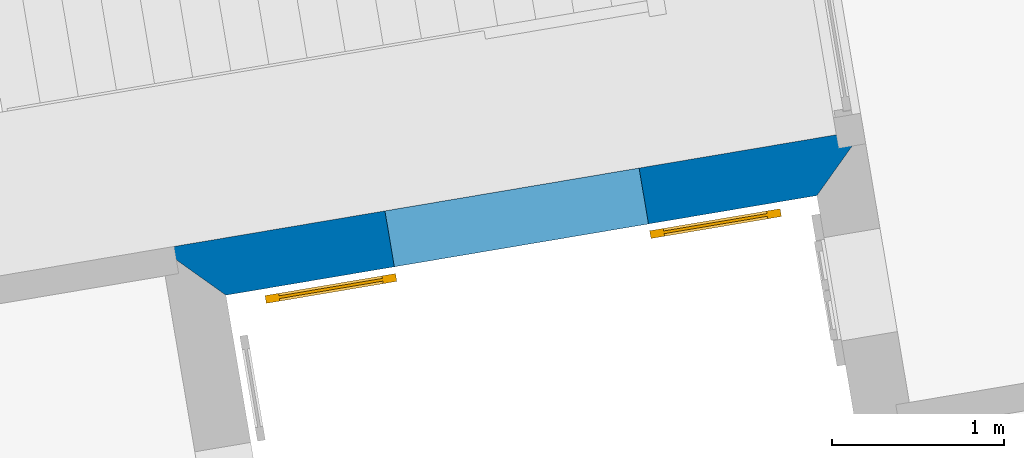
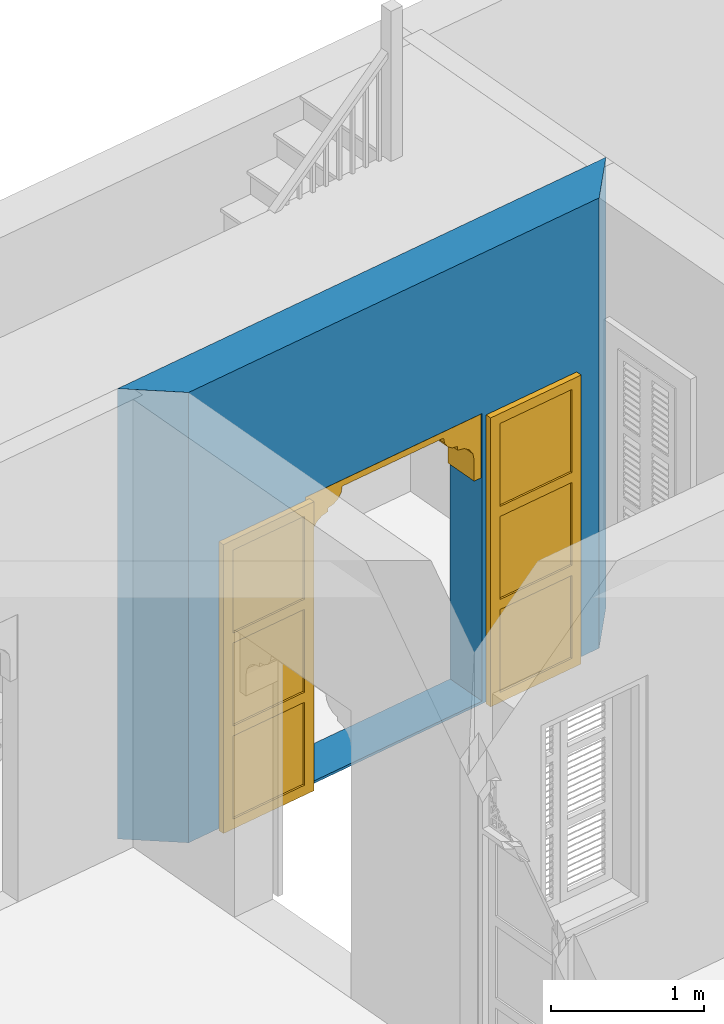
# One storey, part 11 of 15: 1 door, 1 wall, 1 opening.
"""IFC4 building model written with IfcOpenShell, lengths in metres."""

from ifc_helpers import new_model, si_unit, frame, origin, origin_with_axes, place, context, subcontext, project, spatial, polyline, outline, extrude, faceted_brep, source, transform, mapped, material, layer, layer_set, layer_usage, type_object, type_shapes, element, fill, save


model = new_model("IFC4")

# Units and contexts
model_context = context("Model", 3, world=origin_with_axes())
body_context = subcontext(model_context, "Body", "Model", "MODEL_VIEW")
ifc_project = project(units=[si_unit("PLANEANGLEUNIT", "RADIAN"), si_unit("MASSUNIT", "GRAM", prefix="KILO"), si_unit("FORCEUNIT", "NEWTON", prefix="KILO"), si_unit("LENGTHUNIT", "METRE"), si_unit("AREAUNIT", "SQUARE_METRE"), si_unit("VOLUMEUNIT", "CUBIC_METRE")], contexts=[model_context, model_context])

# Site, building, storey
site_placement = place(None, origin_with_axes())
site = spatial("IfcSite", under=ifc_project, at=site_placement, Name="Site plot-6", CompositionType="ELEMENT")
building_placement = place(None, origin_with_axes())
building = spatial("IfcBuilding", under=site, at=building_placement, Name="Building plot-6", CompositionType="ELEMENT")
storey_placement = place(None, origin_with_axes())
storey = spatial("IfcBuildingStorey", under=building, at=storey_placement, Name="plot-6 0", CompositionType="ELEMENT", Elevation=0.0)

# Wall, opening, door
ifc_material = material(Name="Masonry")
ifc_layer = layer(ifc_material, 0.33, ventilated=False)
ifc_layer_set = layer_set([ifc_layer], Name="exterior_0.08_0.25")
ifc_layer_usage = layer_usage(ifc_layer_set, "AXIS2", "POSITIVE", -0.25)
wall_type = type_object("IfcWallType", Name="exterior_0.08_0.25", PredefinedType="SOLIDWALL", material=ifc_layer_set)
wall_placement = place(storey_placement, frame((-6.94638677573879, 2.66513004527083, 0.0), z_axis=(0.0, 0.0, 1.0), x_axis=(0.986076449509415, 0.166292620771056, 0.0)))
wall = element("IfcWall", 1, at=wall_placement, inside=storey, type_object=wall_type, material=ifc_layer_usage, Name="exterior", context=body_context, shape_type="SweptSolid", body=[
    extrude(outline(polyline([(-0.0799999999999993, 0.0799999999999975), (0.249999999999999, -0.250000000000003), (3.73805094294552, -0.25), (4.06805094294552, 0.0799999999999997), (-0.0799999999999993, 0.0799999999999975)])), origin_with_axes(), (0.0, 0.0, 1.0), 3.6),
])
opening_placement = place(wall_placement, frame((1.24402547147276, 0.0, 0.02)))
opening = element("IfcOpeningElement", 2, at=opening_placement, cuts=wall, Name="My Opening", ObjectType="Opening", context=body_context, shape_type="SweptSolid", body=[
    extrude(outline(polyline([(0.0, -0.27), (1.5, -0.27), (1.5, 1.1), (0.0, 1.1), (0.0, -0.27)])), origin_with_axes(), (0.0, 0.0, 1.0), 2.3),
])
door_type = type_object("IfcDoorType", Name="arch-1500x2300", OperationType="SINGLE_SWING_LEFT", PredefinedType="NOTDEFINED")
shared_shape = source(origin(), body_context, "Body", "Brep", [
    faceted_brep([(-0.08, -0.02, 0.08), (-0.08, -0.02, 0.0), (-0.69, -0.02, 0.0), (-0.69, -0.02, 0.08), (-0.77, -0.02, 0.0), (-0.77, -0.02, 0.08), (-0.69, -0.035, 0.08), (-0.08, -0.035, 0.08), (0.0, -0.02, 0.08), (0.0, -0.02, 0.0), (-0.08, -0.066, 0.0), (-0.69, -0.066, 0.0), (-0.77, -0.066, 0.0), (-0.77, -0.066, 0.08), (-0.69, -0.02, 0.743333), (-0.77, -0.02, 0.743333), (-0.69, -0.035, 0.743333), (-0.08, -0.035, 0.743333), (-0.08, -0.02, 0.743333), (0.0, -0.02, 0.743333), (0.0, -0.066, 0.08), (0.0, -0.066, 0.0), (-0.69, -0.066, 0.08), (-0.08, -0.066, 0.08), (-0.77, -0.066, 0.743333), (-0.69, -0.02, 0.823333), (-0.77, -0.02, 0.823333), (0.0, -0.066, 0.743333), (0.0, -0.02, 0.823333), (-0.08, -0.02, 0.823333), (-0.08, -0.051, 0.08), (-0.69, -0.051, 0.08), (-0.69, -0.066, 0.743333), (-0.77, -0.066, 0.823333), (-0.69, -0.02, 1.486667), (-0.77, -0.02, 1.486667), (0.0, -0.066, 0.823333), (-0.08, -0.066, 0.743333), (0.0, -0.02, 1.486667), (-0.08, -0.02, 1.486667), (-0.08, -0.051, 0.743333), (-0.69, -0.051, 0.743333), (-0.69, -0.066, 0.823333), (-0.77, -0.066, 1.486667), (-0.69, -0.035, 0.823333), (-0.08, -0.035, 0.823333), (-0.69, -0.035, 1.486667), (-0.69, -0.02, 1.566667), (-0.77, -0.02, 1.566667), (0.0, -0.066, 1.486667), (-0.08, -0.066, 0.823333), (-0.08, -0.035, 1.486667), (0.0, -0.02, 1.566667), (-0.08, -0.02, 1.566667), (-0.69, -0.066, 1.486667), (-0.77, -0.066, 1.566667), (-0.69, -0.02, 2.23), (-0.77, -0.02, 2.23), (0.0, -0.066, 1.566667), (-0.08, -0.066, 1.486667), (0.0, -0.02, 2.23), (-0.08, -0.02, 2.23), (-0.08, -0.051, 0.823333), (-0.69, -0.051, 0.823333), (-0.69, -0.051, 1.486667), (-0.69, -0.066, 1.566667), (-0.77, -0.066, 2.23), (-0.69, -0.035, 1.566667), (-0.08, -0.035, 1.566667), (-0.69, -0.035, 2.23), (-0.69, -0.02, 2.31), (-0.77, -0.02, 2.31), (0.0, -0.066, 2.23), (-0.08, -0.066, 1.566667), (-0.08, -0.051, 1.486667), (-0.08, -0.035, 2.23), (0.0, -0.02, 2.31), (-0.08, -0.02, 2.31), (-0.69, -0.066, 2.23), (-0.77, -0.066, 2.31), (-0.69, -0.066, 2.31), (0.0, -0.066, 2.31), (-0.08, -0.066, 2.23), (-0.08, -0.066, 2.31), (-0.08, -0.051, 1.566667), (-0.69, -0.051, 1.566667), (-0.69, -0.051, 2.23), (-0.08, -0.051, 2.23), (2.19, -0.02, 0.08), (2.19, -0.02, 0.0), (1.58, -0.02, 0.0), (1.58, -0.02, 0.08), (2.27, -0.02, 0.08), (2.27, -0.02, 0.0), (1.58, -0.035, 0.08), (2.19, -0.035, 0.08), (1.5, -0.02, 0.0), (1.5, -0.02, 0.08), (2.19, -0.066, 0.0), (1.58, -0.066, 0.0), (2.27, -0.066, 0.08), (2.27, -0.066, 0.0), (2.27, -0.02, 0.743333), (2.19, -0.02, 0.743333), (2.19, -0.035, 0.743333), (1.58, -0.035, 0.743333), (1.58, -0.02, 0.743333), (1.5, -0.02, 0.743333), (1.5, -0.066, 0.0), (1.5, -0.066, 0.08), (1.58, -0.066, 0.08), (2.19, -0.066, 0.08), (2.27, -0.066, 0.743333), (2.27, -0.02, 0.823333), (2.19, -0.02, 0.823333), (1.5, -0.066, 0.743333), (1.58, -0.02, 0.823333), (1.5, -0.02, 0.823333), (2.19, -0.051, 0.08), (1.58, -0.051, 0.08), (2.19, -0.066, 0.743333), (2.27, -0.066, 0.823333), (2.27, -0.02, 1.486667), (2.19, -0.02, 1.486667), (1.5, -0.066, 0.823333), (1.58, -0.066, 0.743333), (1.58, -0.02, 1.486667), (1.5, -0.02, 1.486667), (1.58, -0.051, 0.743333), (2.19, -0.051, 0.743333), (2.19, -0.066, 0.823333), (2.27, -0.066, 1.486667), (1.58, -0.035, 0.823333), (2.19, -0.035, 0.823333), (2.19, -0.035, 1.486667), (2.27, -0.02, 1.566667), (2.19, -0.02, 1.566667), (1.5, -0.066, 1.486667), (1.58, -0.066, 0.823333), (1.58, -0.035, 1.486667), (1.58, -0.02, 1.566667), (1.5, -0.02, 1.566667), (2.19, -0.066, 1.486667), (2.27, -0.066, 1.566667), (2.27, -0.02, 2.23), (2.19, -0.02, 2.23), (1.5, -0.066, 1.566667), (1.58, -0.066, 1.486667), (1.58, -0.02, 2.23), (1.5, -0.02, 2.23), (2.19, -0.051, 0.823333), (1.58, -0.051, 0.823333), (2.19, -0.051, 1.486667), (2.19, -0.066, 1.566667), (2.27, -0.066, 2.23), (1.58, -0.035, 1.566667), (2.19, -0.035, 1.566667), (2.19, -0.035, 2.23), (2.27, -0.02, 2.31), (2.19, -0.02, 2.31), (1.5, -0.066, 2.23), (1.58, -0.066, 1.566667), (1.58, -0.051, 1.486667), (1.58, -0.035, 2.23), (1.58, -0.02, 2.31), (1.5, -0.02, 2.31), (2.19, -0.066, 2.23), (2.27, -0.066, 2.31), (2.19, -0.066, 2.31), (1.5, -0.066, 2.31), (1.58, -0.066, 2.23), (1.58, -0.066, 2.31), (2.19, -0.051, 1.566667), (1.58, -0.051, 1.566667), (2.19, -0.051, 2.23), (1.58, -0.051, 2.23), (1.5, 0.03, 1.78), (1.5, 0.03, 1.95), (1.44, 0.03, 1.95), (1.44, 0.03, 1.78), (1.44, 0.3, 1.95), (1.44, 0.3, 1.78), (1.5, 0.03, 2.12), (1.429, 0.03, 2.004), (1.5, 0.3, 1.78), (1.5, 0.3, 1.95), (1.429, 0.3, 2.004), (1.399, 0.03, 2.049), (1.5, 0.3, 2.12), (1.399, 0.3, 2.049), (1.354, 0.03, 2.079), (1.5, 0.3, 2.29), (1.5, 0.03, 2.29), (1.354, 0.3, 2.079), (1.3, 0.03, 2.09), (1.3, 0.03, 2.12), (1.254, 0.03, 2.129), (1.18, 0.3, 2.29), (1.18, 0.03, 2.29), (1.3, 0.3, 2.12), (1.254, 0.3, 2.129), (1.3, 0.3, 2.09), (1.215, 0.03, 2.155), (1.189, 0.3, 2.194), (1.18, 0.3, 2.24), (1.18, 0.03, 2.24), (1.189, 0.03, 2.194), (1.215, 0.3, 2.155), (0.06, 0.03, 1.78), (0.06, 0.03, 1.95), (0.0, 0.03, 1.95), (0.0, 0.03, 1.78), (0.06, 0.3, 1.78), (0.06, 0.3, 1.95), (0.071, 0.03, 2.004), (0.0, 0.03, 2.12), (0.0, 0.3, 1.95), (0.0, 0.3, 1.78), (0.071, 0.3, 2.004), (0.101, 0.03, 2.049), (0.0, 0.3, 2.12), (0.101, 0.3, 2.049), (0.146, 0.03, 2.079), (0.0, 0.03, 2.29), (0.0, 0.3, 2.29), (0.146, 0.3, 2.079), (0.2, 0.03, 2.12), (0.2, 0.03, 2.09), (0.246, 0.03, 2.129), (0.32, 0.03, 2.29), (0.32, 0.3, 2.29), (0.246, 0.3, 2.129), (0.2, 0.3, 2.12), (0.2, 0.3, 2.09), (0.285, 0.03, 2.155), (0.32, 0.3, 2.24), (0.311, 0.3, 2.194), (0.311, 0.03, 2.194), (0.32, 0.03, 2.24), (0.285, 0.3, 2.155)], [[[0, 1, 2, 3]], [[4, 5, 3, 2]], [[0, 3, 6, 7]], [[1, 0, 8, 9]], [[2, 1, 10, 11]], [[5, 4, 12, 13]], [[14, 3, 5, 15]], [[4, 2, 11, 12]], [[3, 14, 16, 6]], [[6, 16, 17, 7]], [[18, 0, 7, 17]], [[0, 18, 19, 8]], [[9, 8, 20, 21]], [[1, 9, 21, 10]], [[22, 11, 10, 23]], [[13, 12, 11, 22]], [[15, 5, 13, 24]], [[25, 14, 15, 26]], [[14, 18, 17, 16]], [[8, 19, 27, 20]], [[28, 19, 18, 29]], [[23, 10, 21, 20]], [[22, 23, 30, 31]], [[22, 32, 24, 13]], [[26, 15, 24, 33]], [[29, 18, 14, 25]], [[34, 25, 26, 35]], [[19, 28, 36, 27]], [[20, 27, 37, 23]], [[38, 28, 29, 39]], [[23, 37, 40, 30]], [[41, 31, 30, 40]], [[32, 22, 31, 41]], [[32, 42, 33, 24]], [[35, 26, 33, 43]], [[29, 25, 44, 45]], [[25, 34, 46, 44]], [[47, 34, 35, 48]], [[28, 38, 49, 36]], [[27, 36, 50, 37]], [[39, 29, 45, 51]], [[52, 38, 39, 53]], [[37, 32, 41, 40]], [[37, 50, 42, 32]], [[42, 54, 43, 33]], [[48, 35, 43, 55]], [[44, 46, 51, 45]], [[34, 39, 51, 46]], [[34, 47, 53, 39]], [[56, 47, 48, 57]], [[38, 52, 58, 49]], [[36, 49, 59, 50]], [[60, 52, 53, 61]], [[42, 50, 62, 63]], [[54, 42, 63, 64]], [[54, 65, 55, 43]], [[57, 48, 55, 66]], [[53, 47, 67, 68]], [[47, 56, 69, 67]], [[70, 56, 57, 71]], [[52, 60, 72, 58]], [[49, 58, 73, 59]], [[50, 59, 74, 62]], [[61, 53, 68, 75]], [[76, 60, 61, 77]], [[64, 63, 62, 74]], [[59, 54, 64, 74]], [[65, 54, 59, 73]], [[65, 78, 66, 55]], [[71, 57, 66, 79]], [[67, 69, 75, 68]], [[56, 61, 75, 69]], [[77, 61, 56, 70]], [[70, 71, 79, 80]], [[60, 76, 81, 72]], [[58, 72, 82, 73]], [[76, 77, 83, 81]], [[65, 73, 84, 85]], [[78, 65, 85, 86]], [[78, 80, 79, 66]], [[77, 70, 80, 83]], [[72, 81, 83, 82]], [[73, 82, 87, 84]], [[86, 85, 84, 87]], [[82, 78, 86, 87]], [[82, 83, 80, 78]], [[88, 89, 90, 91]], [[89, 88, 92, 93]], [[94, 95, 88, 91]], [[96, 97, 91, 90]], [[98, 99, 90, 89]], [[100, 101, 93, 92]], [[102, 92, 88, 103]], [[101, 98, 89, 93]], [[95, 104, 103, 88]], [[94, 105, 104, 95]], [[105, 94, 91, 106]], [[97, 107, 106, 91]], [[108, 109, 97, 96]], [[99, 108, 96, 90]], [[110, 99, 98, 111]], [[111, 98, 101, 100]], [[112, 100, 92, 102]], [[113, 102, 103, 114]], [[104, 105, 106, 103]], [[109, 115, 107, 97]], [[116, 106, 107, 117]], [[109, 108, 99, 110]], [[118, 119, 110, 111]], [[100, 112, 120, 111]], [[121, 112, 102, 113]], [[114, 103, 106, 116]], [[122, 113, 114, 123]], [[115, 124, 117, 107]], [[110, 125, 115, 109]], [[126, 116, 117, 127]], [[119, 128, 125, 110]], [[128, 119, 118, 129]], [[129, 118, 111, 120]], [[112, 121, 130, 120]], [[131, 121, 113, 122]], [[132, 133, 114, 116]], [[133, 134, 123, 114]], [[135, 122, 123, 136]], [[124, 137, 127, 117]], [[125, 138, 124, 115]], [[139, 132, 116, 126]], [[140, 126, 127, 141]], [[128, 129, 120, 125]], [[120, 130, 138, 125]], [[121, 131, 142, 130]], [[143, 131, 122, 135]], [[132, 139, 134, 133]], [[134, 139, 126, 123]], [[126, 140, 136, 123]], [[144, 135, 136, 145]], [[137, 146, 141, 127]], [[138, 147, 137, 124]], [[148, 140, 141, 149]], [[150, 151, 138, 130]], [[152, 150, 130, 142]], [[131, 143, 153, 142]], [[154, 143, 135, 144]], [[155, 156, 136, 140]], [[156, 157, 145, 136]], [[158, 144, 145, 159]], [[146, 160, 149, 141]], [[147, 161, 146, 137]], [[151, 162, 147, 138]], [[163, 155, 140, 148]], [[164, 148, 149, 165]], [[162, 151, 150, 152]], [[162, 152, 142, 147]], [[161, 147, 142, 153]], [[143, 154, 166, 153]], [[167, 154, 144, 158]], [[155, 163, 157, 156]], [[157, 163, 148, 145]], [[159, 145, 148, 164]], [[168, 167, 158, 159]], [[160, 169, 165, 149]], [[161, 170, 160, 146]], [[169, 171, 164, 165]], [[172, 173, 161, 153]], [[174, 172, 153, 166]], [[154, 167, 168, 166]], [[171, 168, 159, 164]], [[170, 171, 169, 160]], [[173, 175, 170, 161]], [[175, 173, 172, 174]], [[175, 174, 166, 170]], [[166, 168, 171, 170]], [[176, 177, 178, 179]], [[180, 181, 179, 178]], [[177, 182, 183, 178]], [[177, 176, 184, 185]], [[181, 184, 176, 179]], [[181, 180, 185, 184]], [[186, 180, 178, 183]], [[182, 187, 183]], [[182, 177, 185, 188]], [[180, 186, 188, 185]], [[189, 186, 183, 187]], [[182, 190, 187]], [[188, 191, 192, 182]], [[188, 186, 189]], [[193, 189, 187, 190]], [[194, 190, 182, 195]], [[182, 192, 196, 195]], [[192, 191, 197, 198]], [[199, 200, 191, 188]], [[188, 189, 193]], [[201, 193, 190, 194]], [[199, 201, 194, 195]], [[200, 199, 195, 196]], [[192, 202, 196]], [[191, 203, 204, 197]], [[192, 198, 205, 206]], [[207, 191, 200]], [[199, 188, 193, 201]], [[207, 200, 196, 202]], [[192, 206, 202]], [[204, 203, 206, 205]], [[203, 191, 207]], [[203, 207, 202, 206]], [[208, 209, 210, 211]], [[209, 208, 212, 213]], [[209, 214, 215, 210]], [[211, 210, 216, 217]], [[208, 211, 217, 212]], [[217, 216, 213, 212]], [[214, 209, 213, 218]], [[214, 219, 215]], [[220, 216, 210, 215]], [[216, 220, 218, 213]], [[219, 214, 218, 221]], [[219, 222, 215]], [[215, 223, 224, 220]], [[221, 218, 220]], [[222, 219, 221, 225]], [[226, 215, 222, 227]], [[226, 228, 223, 215]], [[229, 230, 224, 223]], [[220, 224, 231, 232]], [[225, 221, 220]], [[227, 222, 225, 233]], [[226, 227, 233, 232]], [[228, 226, 232, 231]], [[228, 234, 223]], [[230, 235, 236, 224]], [[237, 238, 229, 223]], [[231, 224, 239]], [[233, 225, 220, 232]], [[234, 228, 231, 239]], [[234, 237, 223]], [[238, 237, 236, 235]], [[239, 224, 236]], [[237, 234, 239, 236]], [[238, 235, 204, 205]], [[235, 230, 197, 204]], [[229, 238, 205, 198]], [[230, 229, 198, 197]]]),
])
type_shapes(door_type, [shared_shape])
door_placement = place(storey_placement, frame((-5.67478354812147, 2.60576165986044, 0.02), z_axis=(0.0, 0.0, 1.0), x_axis=(1.47911467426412, 0.249438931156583, 0.0)))
door = element("IfcDoor", 3, at=door_placement, inside=storey, type_object=door_type, Name="circulation sahn door", OverallHeight=2.3, OverallWidth=1.5, context=body_context, shape_type="MappedRepresentation", body=[
    mapped(shared_shape, transform((0.0, 0.0, 0.0), scale=1.0)),
])
fill(opening, door)

save(model, "model.ifc")
